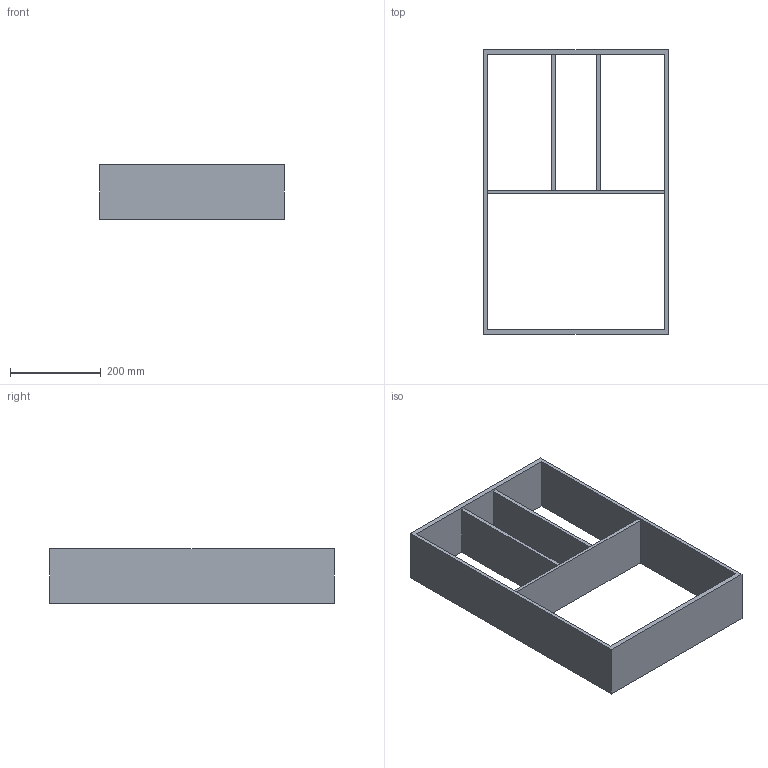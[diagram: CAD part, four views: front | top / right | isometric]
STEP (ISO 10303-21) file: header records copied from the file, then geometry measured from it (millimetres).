
FILE_DESCRIPTION (( 'STEP AP214' ), '1' );
FILE_NAME ('Vario Multi H120 NL650_B500_16 mm_Alu-Alu.step', '2010-10-08T09:48:22', ( 'grass' ), ( '' ), 'SwSTEP 2.0', 'SolidWorks 2010', '' );
FILE_SCHEMA (( 'AUTOMOTIVE_DESIGN' ));
Length unit declared in the file: millimetre
Products named in the file (1): Vario Multi H120 NL650_B500_16 mm_Alu-Alu
Bounding box: 408 x 629 x 120 mm (x, y, z)
Volume: 3146676 mm3; surface area: 762440 mm2
Topology: 1 solids, 1 shells, 22 faces, 60 edges, 40 vertices
Faces by surface type: plane 22
Entity records: 734 total; most frequent: CARTESIAN_POINT 123, ORIENTED_EDGE 120, DIRECTION 106, LINE 60, VECTOR 60, EDGE_CURVE 60, VERTEX_POINT 40, EDGE_LOOP 30
